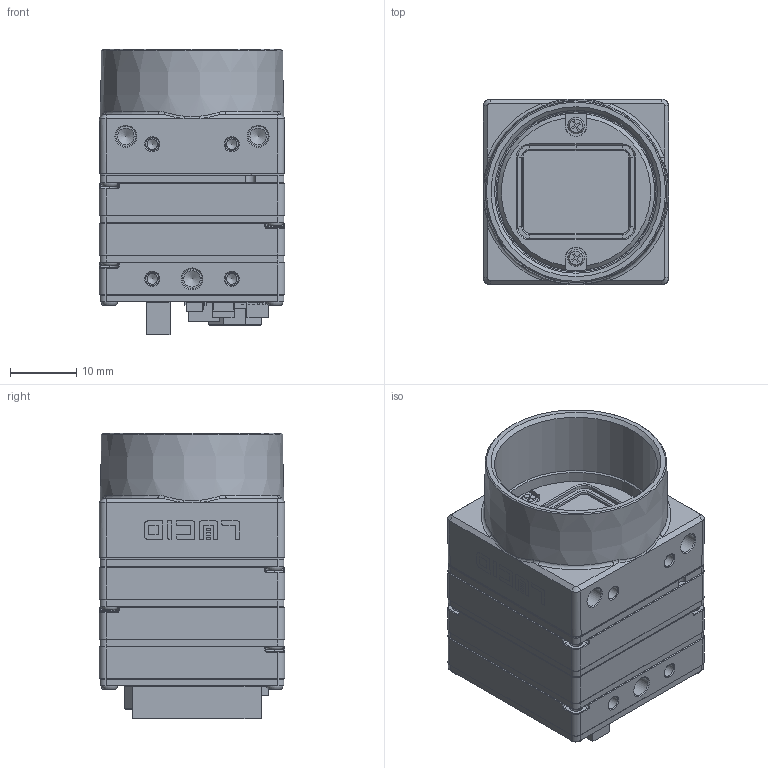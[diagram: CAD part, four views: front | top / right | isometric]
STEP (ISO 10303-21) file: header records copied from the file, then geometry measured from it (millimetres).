
FILE_DESCRIPTION (( 'STEP AP203' ), '1' );
FILE_NAME ('309-645-A.STEP', '2019-08-21T22:54:15', ( '' ), ( '' ), 'SwSTEP 2.0', 'SolidWorks 2017', '' );
FILE_SCHEMA (( 'CONFIG_CONTROL_DESIGN' ));
Products named in the file (1): 309-645-A
Bounding box: 28 x 28 x 43.18 mm (x, y, z)
Volume: 11025 mm3; surface area: 21219.1 mm2
Topology: 68 solids, 68 shells, 3502 faces, 8943 edges, 5603 vertices
Faces by surface type: plane 2088, cylinder 780, cone 223, bspline 193, torus 120, sphere 98
Full cylindrical faces by diameter (mm): 1 x2, 1.05 x1, 1.1 x2, 1.2 x1, 1.35 x6, 1.6 x6, 1.7 x24, 1.8 x4, 1.9 x22, 2 x6, 2.5 x5, 3 x5, 24.2 x1, 24.64 x1
Entity records: 108286 total; most frequent: CARTESIAN_POINT 25552, ORIENTED_EDGE 17328, DIRECTION 16397, EDGE_CURVE 8664, VECTOR 6105, LINE 6105, VERTEX_POINT 5562, AXIS2_PLACEMENT_3D 5146
